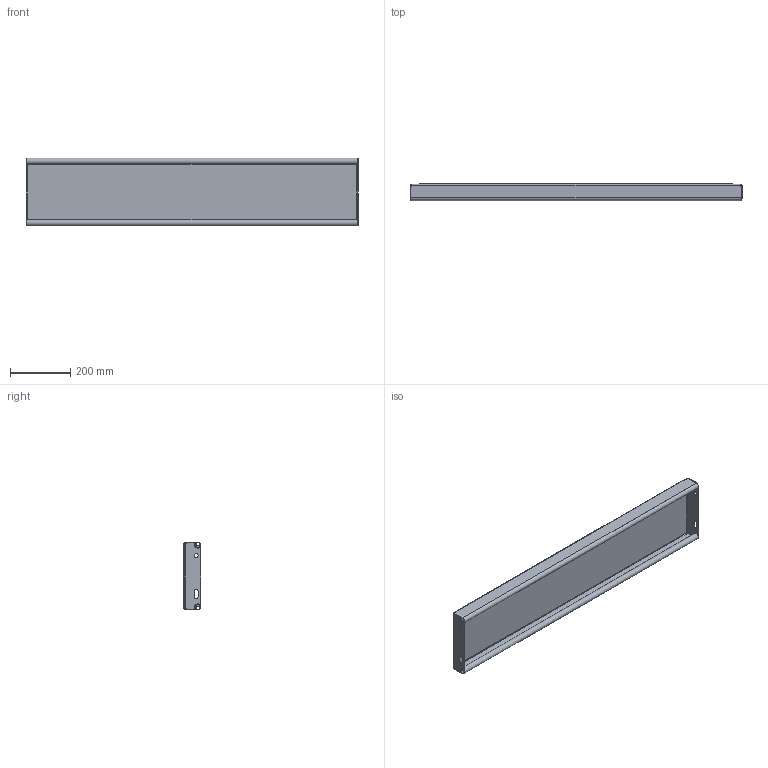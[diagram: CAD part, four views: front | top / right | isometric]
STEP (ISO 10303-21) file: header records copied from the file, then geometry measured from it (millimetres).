
FILE_DESCRIPTION (( 'STEP AP214' ), '1' );
FILE_NAME ('OPTIMO-Tread-Achil-O2-1100x225x57x2-st240-F100280100_plain.STEP', '2021-03-16T08:01:08', ( '' ), ( '' ), 'SwSTEP 2.0', 'SolidWorks 2021', '' );
FILE_SCHEMA (( 'AUTOMOTIVE_DESIGN' ));
Length unit declared in the file: millimetre
Products named in the file (1): OPTIMO-Tread-Achil-O2-1100x225x57x2-st240-F100280100_plain
Bounding box: 1100 x 57 x 225 mm (x, y, z)
Volume: 1605979.9 mm3; surface area: 943629.4 mm2
Topology: 1 solids, 1 shells, 248 faces, 640 edges, 412 vertices
Faces by surface type: plane 173, bspline 39, cylinder 36
Entity records: 9924 total; most frequent: CARTESIAN_POINT 4092, ORIENTED_EDGE 1280, DIRECTION 1022, EDGE_CURVE 640, VECTOR 490, LINE 490, VERTEX_POINT 412, EDGE_LOOP 274
